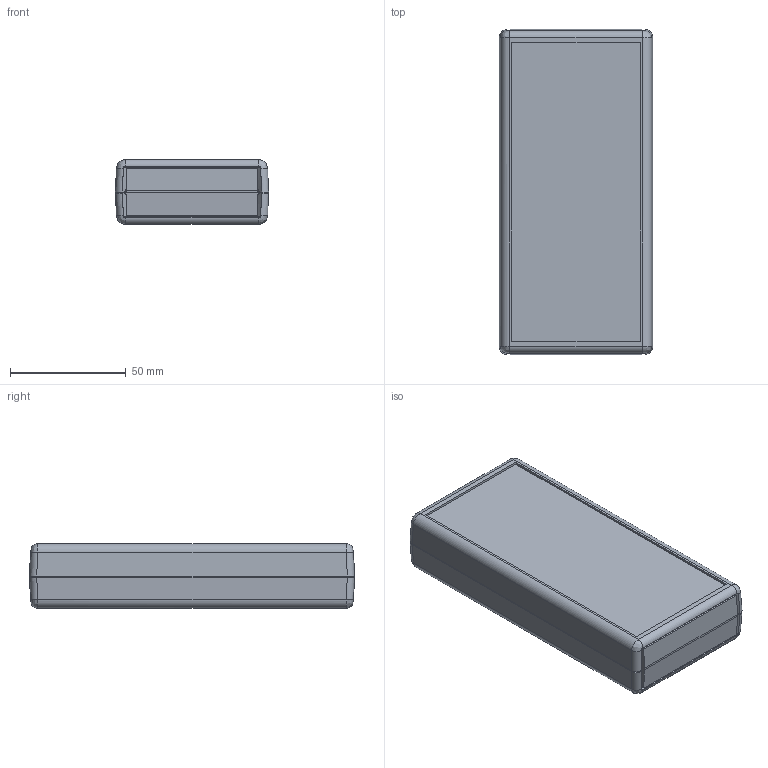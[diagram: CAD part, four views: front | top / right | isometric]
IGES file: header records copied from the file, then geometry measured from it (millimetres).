
Global section: file name: 1593X.iam; native system: Autodesk Inventor 2016; preprocessor: unknown; author: MBeerman; date: 20160425.153557; units: millimetre
Bounding box: 66.22 x 140.49 x 28 mm (x, y, z)
Volume: 89512.5 mm3; surface area: 84854.7 mm2
Topology: 11 solids, 11 shells, 720 faces, 1937 edges, 1310 vertices
Faces by surface type: plane 394, bspline 120, revolution 112, cone 48, cylinder 42, sphere 4
Full cylindrical faces by diameter (mm): 2.845 x4
